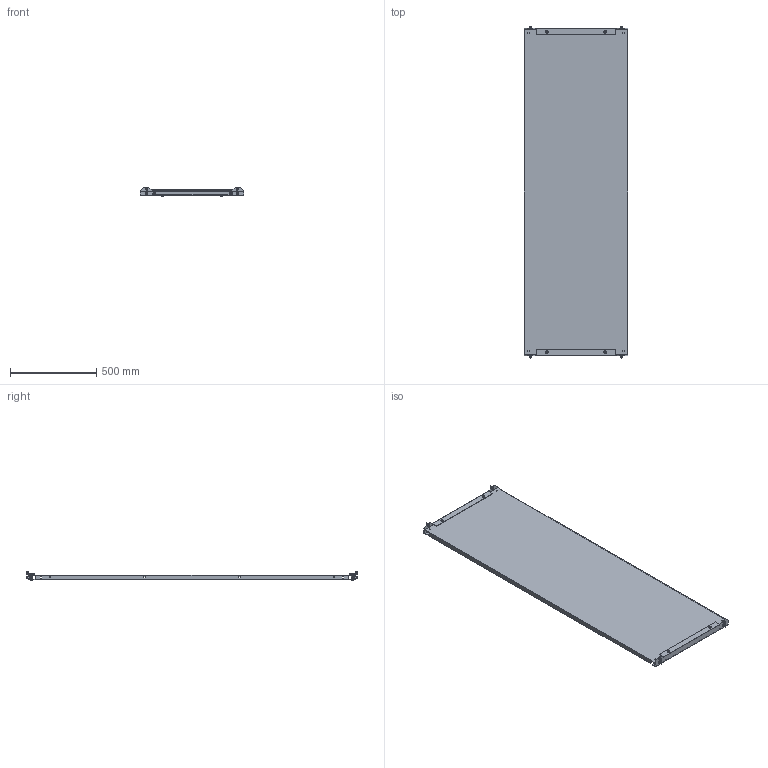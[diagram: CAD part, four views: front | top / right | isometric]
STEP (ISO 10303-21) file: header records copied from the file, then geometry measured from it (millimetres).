
FILE_DESCRIPTION(('Open CASCADE Model'),'2;1');
FILE_NAME('Open CASCADE Shape Model','2025-02-13T16:49:46',('Author'),( 'Open CASCADE'),'Open CASCADE STEP processor 7.8','Open CASCADE 7.8' ,'Unknown');
FILE_SCHEMA(('AUTOMOTIVE_DESIGN { 1 0 10303 214 1 1 1 1 }'));
Length unit declared in the file: millimetre
Products named in the file (11): Compound1; Solid1; Compound2; Solid2; Solid3; Solid4; Solid5; Solid6; Solid7; Solid8; Solid9
Assembly tree (38 placements, depth 3):
  Compound1
    Solid1
    Compound2  x2
      Solid2
      Solid3
    Solid4  x4
    Solid5  x4
    Solid6  x4
    Solid7  x4
    Solid8  x8
    Solid9  x8
Bounding box: 600 x 1926 x 54.5 mm (x, y, z)
Volume: 3565466.8 mm3; surface area: 2882360.7 mm2
Topology: 39 solids, 39 shells, 2600 faces, 7022 edges, 4436 vertices
Faces by surface type: plane 1298, cylinder 702, bspline 304, cone 164, torus 128, sphere 4
Full cylindrical faces by diameter (mm): 5 x12, 6 x16, 6.5 x8, 6.8 x4, 8 x4, 8.3 x8, 8.4 x4, 9.5 x8, 10.1 x4, 10.44 x4, 10.5 x4, 11.57 x8, 12 x4, 12.65 x4, 16 x12, 16.55 x4
Entity records: 22514 total; most frequent: CARTESIAN_POINT 6003, ORIENTED_EDGE 3512, DIRECTION 3182, EDGE_CURVE 1756, LINE 1150, VECTOR 1150, VERTEX_POINT 1131, AXIS2_PLACEMENT_3D 1016
